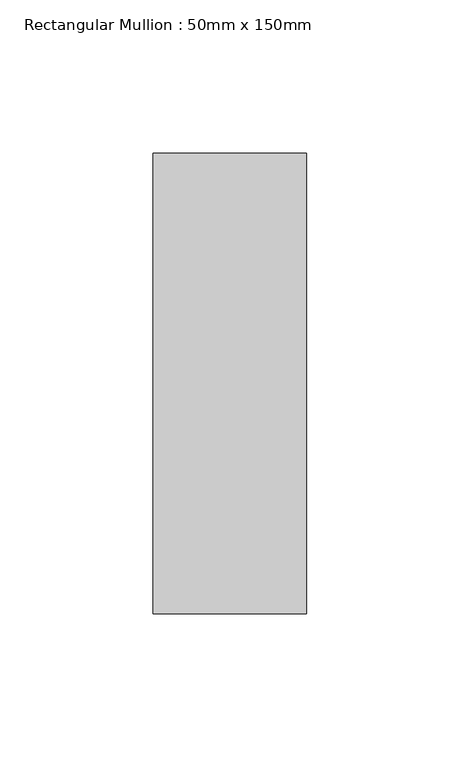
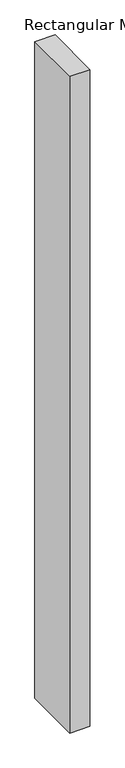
"""IFC4 building model written with IfcOpenShell, lengths in millimetres: member geometry, Rectangular Mullion : 50mm x 150mm."""

from ifc_helpers import new_model, si_unit, frame, origin, place, context, project, spatial, polyline, outline, extrude, source, transform, mapped, element, save


def rectangular_mullion_50mm_x_150mm_8ba0571e(model_context):
    return source(origin(), model_context, "Body", "SweptSolid", [
        extrude(outline(polyline([(0.0, 75.0), (0.0, -75.0), (-50.0, -75.0), (-50.0, 75.0), (0.0, 75.0)])), frame((0.0, 0.0, -1725.0000003), z_axis=(0.0, 0.0, 1.0), x_axis=(1.0, 0.0, 0.0)), (0.0, 0.0, 1.0), 1725.0000003),
    ])


if __name__ == "__main__":
    model = new_model("IFC4")
    model_context = context("Model", 3, world=origin())
    ifc_project = project(units=[si_unit("LENGTHUNIT", "METRE", prefix="MILLI")], contexts=[model_context])
    site = spatial("IfcSite", under=ifc_project)
    building = spatial("IfcBuilding", under=site)
    placement = place(None, origin())
    rectangular_mullion_50mm_x_150mm_shape = rectangular_mullion_50mm_x_150mm_8ba0571e(model_context)
    element("IfcMember", 1, ObjectType="Rectangular Mullion : 50mm x 150mm", at=placement, inside=building, context=model_context, shape_type="MappedRepresentation", body=[
        mapped(rectangular_mullion_50mm_x_150mm_shape, transform((0.0, 0.0, 0.0), x_axis=(1.0, 0.0, 0.0), y_axis=(0.0, 1.0, 0.0), z_axis=(0.0, 0.0, 1.0))),
    ])
    save(model, "model.ifc")
